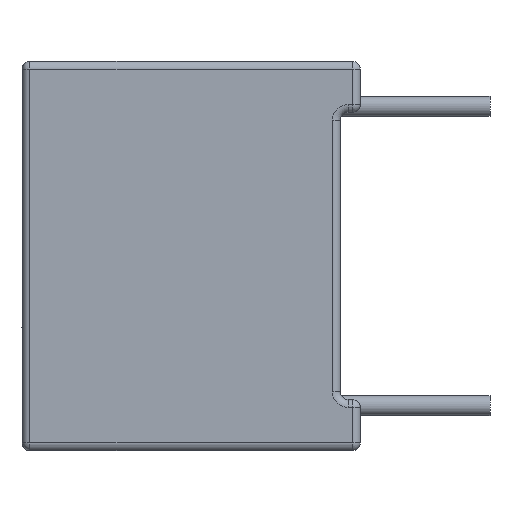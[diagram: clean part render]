
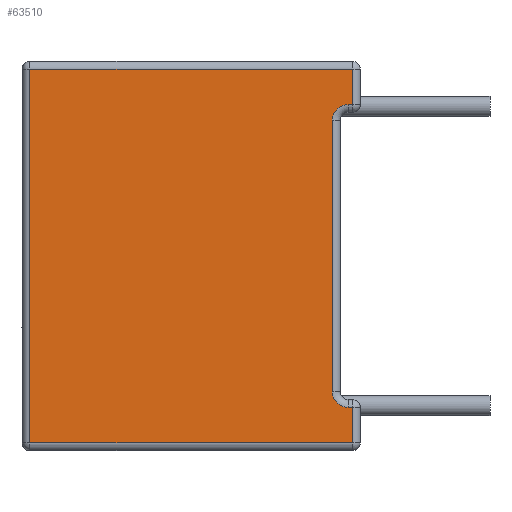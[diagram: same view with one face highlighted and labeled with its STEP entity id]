
A CAD part, left-side view. The second image highlights one B-rep face of the part: STEP entity #63510.
In plain terms, the highlighted planar face has unit normal (-1, 0, 0).
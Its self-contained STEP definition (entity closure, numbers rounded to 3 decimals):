
#38250 = DIRECTION ( 'NONE',  ( 0., 0., -1. ) ) ;
#38251 = VECTOR ( 'NONE', #38250, 1000. ) ;
#38252 = CARTESIAN_POINT ( 'NONE',  ( -9.9, 7.892, -4.95 ) ) ;
#38253 = LINE ( 'NONE', #38252, #38251 ) ;
#38260 = CARTESIAN_POINT ( 'NONE',  ( -9.9, 7.892, 4.75 ) ) ;
#38261 = DIRECTION ( 'NONE',  ( 0., 1., 0. ) ) ;
#38262 = VECTOR ( 'NONE', #38261, 1000. ) ;
#38263 = CARTESIAN_POINT ( 'NONE',  ( -9.9, 8.092, 4.75 ) ) ;
#38264 = LINE ( 'NONE', #38263, #38262 ) ;
#38293 = DIRECTION ( 'NONE',  ( 0., 0., -1. ) ) ;
#38294 = DIRECTION ( 'NONE',  ( 1., 0., 0. ) ) ;
#38295 = CARTESIAN_POINT ( 'NONE',  ( -9.9, 8.092, 4.95 ) ) ;
#38296 = AXIS2_PLACEMENT_3D ( 'NONE', #38295, #38294, #38293 ) ;
#38299 = PLANE ( 'NONE',  #38296 ) ;
#38317 = FACE_OUTER_BOUND ( 'NONE', #63511, .T. ) ;
#38318 = CARTESIAN_POINT ( 'NONE',  ( -9.9, 7.892, -4.75 ) ) ;
#38350 = DIRECTION ( 'NONE',  ( 0., 1., 0. ) ) ;
#38351 = VECTOR ( 'NONE', #38350, 1000. ) ;
#38352 = CARTESIAN_POINT ( 'NONE',  ( -9.9, 0., -3.85 ) ) ;
#38353 = LINE ( 'NONE', #38352, #38351 ) ;
#38354 = CARTESIAN_POINT ( 'NONE',  ( -9.9, -0.308, -3.85 ) ) ;
#38355 = CARTESIAN_POINT ( 'NONE',  ( -9.9, -0.308, -4.75 ) ) ;
#38356 = DIRECTION ( 'NONE',  ( 0., 0., 1. ) ) ;
#38357 = VECTOR ( 'NONE', #38356, 1000. ) ;
#38358 = CARTESIAN_POINT ( 'NONE',  ( -9.9, -0.308, -3.65 ) ) ;
#38359 = LINE ( 'NONE', #38358, #38357 ) ;
#38404 = CARTESIAN_POINT ( 'NONE',  ( -9.9, 0.2, -3.45 ) ) ;
#38415 = DIRECTION ( 'NONE',  ( 0., 0., -1. ) ) ;
#38416 = DIRECTION ( 'NONE',  ( -1., 0., 0. ) ) ;
#38417 = CARTESIAN_POINT ( 'NONE',  ( -9.9, -0.2, -3.45 ) ) ;
#38418 = AXIS2_PLACEMENT_3D ( 'NONE', #38417, #38416, #38415 ) ;
#38419 = CIRCLE ( 'NONE', #38418, 0.4 ) ;
#38421 = CARTESIAN_POINT ( 'NONE',  ( -9.9, -0.2, -3.85 ) ) ;
#38482 = CARTESIAN_POINT ( 'NONE',  ( -9.9, -0.2, 3.85 ) ) ;
#38483 = CARTESIAN_POINT ( 'NONE',  ( -9.9, 0.2, 3.45 ) ) ;
#38484 = DIRECTION ( 'NONE',  ( 0., 0., 1. ) ) ;
#38485 = VECTOR ( 'NONE', #38484, 1000. ) ;
#38486 = CARTESIAN_POINT ( 'NONE',  ( -9.9, 0.2, 4.95 ) ) ;
#38487 = LINE ( 'NONE', #38486, #38485 ) ;
#38582 = DIRECTION ( 'NONE',  ( 0., 0., -1. ) ) ;
#38583 = DIRECTION ( 'NONE',  ( -1., 0., 0. ) ) ;
#38584 = CARTESIAN_POINT ( 'NONE',  ( -9.9, -0.2, 3.45 ) ) ;
#38585 = AXIS2_PLACEMENT_3D ( 'NONE', #38584, #38583, #38582 ) ;
#38590 = CIRCLE ( 'NONE', #38585, 0.4 ) ;
#38621 = CARTESIAN_POINT ( 'NONE',  ( -9.9, -0.308, 4.75 ) ) ;
#38633 = DIRECTION ( 'NONE',  ( 0., 0., 1. ) ) ;
#38634 = VECTOR ( 'NONE', #38633, 1000. ) ;
#38635 = CARTESIAN_POINT ( 'NONE',  ( -9.9, -0.308, 4.95 ) ) ;
#38636 = LINE ( 'NONE', #38635, #38634 ) ;
#38638 = CARTESIAN_POINT ( 'NONE',  ( -9.9, -0.308, 3.85 ) ) ;
#38639 = DIRECTION ( 'NONE',  ( 0., -1., 0. ) ) ;
#38640 = VECTOR ( 'NONE', #38639, 1000. ) ;
#38641 = CARTESIAN_POINT ( 'NONE',  ( -9.9, 8.092, 3.85 ) ) ;
#38642 = LINE ( 'NONE', #38641, #38640 ) ;
#38817 = DIRECTION ( 'NONE',  ( 0., -1., 0. ) ) ;
#38818 = VECTOR ( 'NONE', #38817, 1000. ) ;
#38819 = CARTESIAN_POINT ( 'NONE',  ( -9.9, 8.092, -4.75 ) ) ;
#38821 = LINE ( 'NONE', #38819, #38818 ) ;
#63498 = EDGE_CURVE ( 'NONE', #63577, #63500, #38264, .T. ) ;
#63500 = VERTEX_POINT ( 'NONE', #38260 ) ;
#63504 = ORIENTED_EDGE ( 'NONE', *, *, #63506, .T. ) ;
#63506 = EDGE_CURVE ( 'NONE', #63500, #63508, #38253, .T. ) ;
#63508 = VERTEX_POINT ( 'NONE', #38318 ) ;
#63510 = ADVANCED_FACE ( 'NONE', ( #38317 ), #38299, .F. ) ;
#63511 = EDGE_LOOP ( 'NONE', ( #63513, #63520, #63526, #63532, #63564, #63568, #63574, #63580, #63504, #63625 ) ) ;
#63513 = ORIENTED_EDGE ( 'NONE', *, *, #63515, .T. ) ;
#63515 = EDGE_CURVE ( 'NONE', #63517, #63518, #38359, .T. ) ;
#63517 = VERTEX_POINT ( 'NONE', #38355 ) ;
#63518 = VERTEX_POINT ( 'NONE', #38354 ) ;
#63520 = ORIENTED_EDGE ( 'NONE', *, *, #63522, .T. ) ;
#63522 = EDGE_CURVE ( 'NONE', #63518, #63524, #38353, .T. ) ;
#63524 = VERTEX_POINT ( 'NONE', #38421 ) ;
#63526 = ORIENTED_EDGE ( 'NONE', *, *, #63528, .F. ) ;
#63528 = EDGE_CURVE ( 'NONE', #63530, #63524, #38419, .T. ) ;
#63530 = VERTEX_POINT ( 'NONE', #38404 ) ;
#63532 = ORIENTED_EDGE ( 'NONE', *, *, #63534, .T. ) ;
#63534 = EDGE_CURVE ( 'NONE', #63530, #63536, #38487, .T. ) ;
#63536 = VERTEX_POINT ( 'NONE', #38483 ) ;
#63537 = VERTEX_POINT ( 'NONE', #38482 ) ;
#63564 = ORIENTED_EDGE ( 'NONE', *, *, #63565, .F. ) ;
#63565 = EDGE_CURVE ( 'NONE', #63537, #63536, #38590, .T. ) ;
#63568 = ORIENTED_EDGE ( 'NONE', *, *, #63570, .T. ) ;
#63570 = EDGE_CURVE ( 'NONE', #63537, #63571, #38642, .T. ) ;
#63571 = VERTEX_POINT ( 'NONE', #38638 ) ;
#63574 = ORIENTED_EDGE ( 'NONE', *, *, #63575, .T. ) ;
#63575 = EDGE_CURVE ( 'NONE', #63571, #63577, #38636, .T. ) ;
#63577 = VERTEX_POINT ( 'NONE', #38621 ) ;
#63580 = ORIENTED_EDGE ( 'NONE', *, *, #63498, .T. ) ;
#63625 = ORIENTED_EDGE ( 'NONE', *, *, #63628, .T. ) ;
#63628 = EDGE_CURVE ( 'NONE', #63508, #63517, #38821, .T. ) ;
